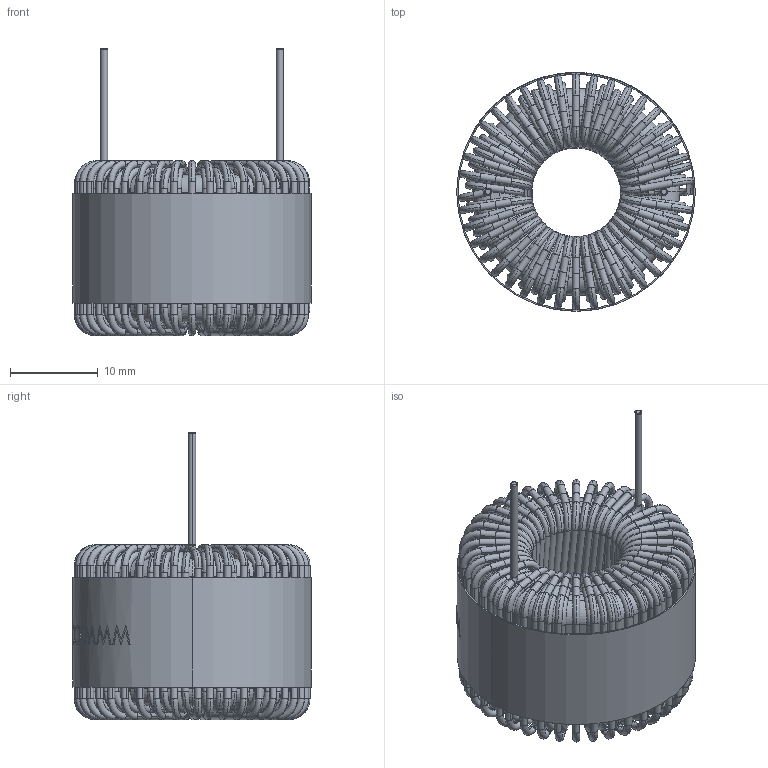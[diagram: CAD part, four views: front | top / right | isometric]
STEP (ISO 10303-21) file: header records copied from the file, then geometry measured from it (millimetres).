
FILE_DESCRIPTION (( 'STEP AP214' ), '1' );
FILE_NAME ('HF2292-751M-3.0AH.STEP', '2022-02-24T07:13:50', ( '' ), ( '' ), 'SwSTEP 2.0', 'SolidWorks 2015', '' );
FILE_SCHEMA (( 'AUTOMOTIVE_DESIGN' ));
Length unit declared in the file: millimetre
Products named in the file (4): COIL; WRAPPER; HF2292-751M-3.0AH; CORE
Assembly tree (3 placements, depth 2):
  HF2292-751M-3.0AH
    CORE
    COIL
    WRAPPER
Bounding box: 27.16 x 27.18 x 32.72 mm (x, y, z)
Volume: 7041 mm3; surface area: 14901.4 mm2
Topology: 51 solids, 51 shells, 1774 faces, 4954 edges, 3298 vertices
Faces by surface type: cylinder 820, torus 714, plane 137, bspline 103
Entity records: 70647 total; most frequent: CARTESIAN_POINT 17908, DIRECTION 11770, ORIENTED_EDGE 9908, AXIS2_PLACEMENT_3D 5473, EDGE_CURVE 4954, CIRCLE 3796, VERTEX_POINT 3298, EDGE_LOOP 1794
